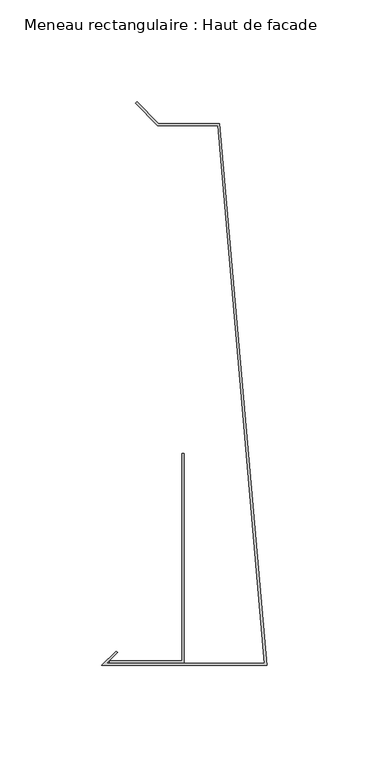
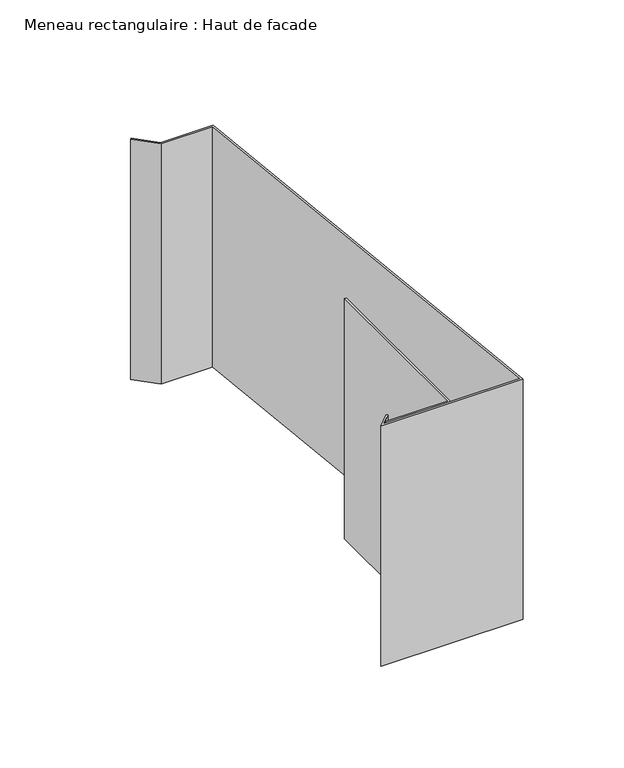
"""IFC4 building model written with IfcOpenShell, lengths in millimetres: member geometry, Meneau rectangulaire : Haut de facade."""

from ifc_helpers import new_model, si_unit, frame, origin, place, context, project, spatial, polyline, outline, extrude, source, transform, mapped, element, save


def meneau_rectangulaire_haut_de_facade_ec6043b4(model_context):
    return source(origin(), model_context, "Body", "SweptSolid", [
        extrude(outline(polyline([(-24.0647895, 160.703755), (-53.5626719, 160.703755), (-64.4621669, 171.6032499), (-63.7550601, 172.3103567), (-53.1484584, 161.703755), (-23.1484584, 161.703755), (0.0, -104.2), (-81.0, -104.2), (-73.9289322, -97.1289322), (-73.2218254, -97.836039), (-78.5857864, -103.2), (-1.0913085, -103.2), (-24.0647895, 160.703755)])), frame((0.0, 0.0, -145.0), z_axis=(0.0, 0.0, 1.0), x_axis=(1.0, 0.0, 0.0)), (0.0, 0.0, 1.0), 145.0),
        extrude(outline(polyline([(-40.5477541, -102.9846816), (-77.0752814, -102.9846816), (-77.0752814, -101.9846816), (-41.5477541, -101.9846816), (-41.5477541, -0.0384227), (-40.5477541, -0.0384227), (-40.5477541, -102.9846816)])), frame((0.0, 0.0, -145.0), z_axis=(0.0, 0.0, 1.0), x_axis=(1.0, 0.0, 0.0)), (0.0, 0.0, 1.0), 145.0),
    ])


if __name__ == "__main__":
    model = new_model("IFC4")
    model_context = context("Model", 3, world=origin())
    ifc_project = project(units=[si_unit("LENGTHUNIT", "METRE", prefix="MILLI")], contexts=[model_context])
    site = spatial("IfcSite", under=ifc_project)
    building = spatial("IfcBuilding", under=site)
    placement = place(None, origin())
    meneau_rectangulaire_haut_de_facade_shape = meneau_rectangulaire_haut_de_facade_ec6043b4(model_context)
    element("IfcMember", 1, ObjectType="Meneau rectangulaire : Haut de facade", at=placement, inside=building, context=model_context, shape_type="MappedRepresentation", body=[
        mapped(meneau_rectangulaire_haut_de_facade_shape, transform((0.0, 0.0, 0.0), x_axis=(1.0, 0.0, 0.0), y_axis=(0.0, 1.0, 0.0), z_axis=(0.0, 0.0, 1.0))),
    ])
    save(model, "model.ifc")
